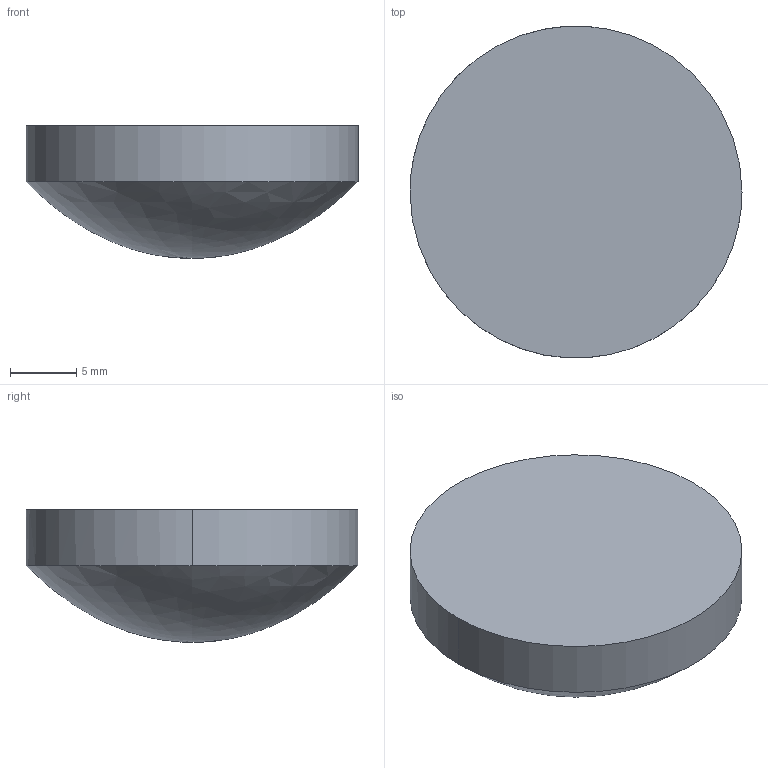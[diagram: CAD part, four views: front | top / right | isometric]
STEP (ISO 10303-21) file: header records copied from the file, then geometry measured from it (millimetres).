
FILE_DESCRIPTION ((), '1');
FILE_NAME ('\\fileserver\Daten\Applikationen\Optikdesign\SPA-Design\aktuelle SPA-Designs\Linsenkataloge - 2016-Juni\Zemax\AFL\AFL25-30.STP', '2016-05-24T14:15:38', ('Unknown'), ('Unknown'), 'HarmonyWare STEP v2.0.1', 'HarmonyWare Translators', '');
FILE_SCHEMA (('CONFIG_CONTROL_DESIGN'));
Length unit declared in the file: millimetre
Products named in the file (1): NONE
Bounding box: 25 x 24.98 x 10 mm (x, y, z)
Volume: 3537.8 mm3; surface area: 1412.1 mm2
Topology: 1 solids, 1 shells, 4 faces, 9 edges, 6 vertices
Faces by surface type: cylinder 2, bspline 1, plane 1
Entity records: 315 total; most frequent: CARTESIAN_POINT 164, ORIENTED_EDGE 16, EDGE_CURVE 8, PERSON 8, ORGANIZATION 8, PERSON_AND_ORGANIZATION 8, VERTEX_POINT 6, DIRECTION 6
